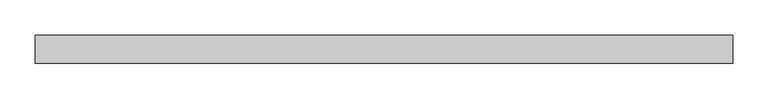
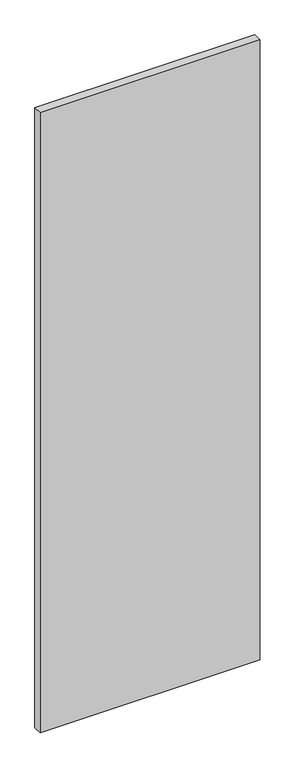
"""IFC4 building model written with IfcOpenShell, lengths in millimetres: plate geometry, Vitré."""

from ifc_helpers import new_model, si_unit, origin, origin_with_axes, place, context, project, spatial, polyline, outline, extrude, source, transform, mapped, element, save


def plate_c4e48dca(model_context):
    return source(origin(), model_context, "Body", "SweptSolid", [
        extrude(outline(polyline([(-496.2147737, -20.0), (-496.2147737, 20.0), (496.2147737, 20.0), (496.2147737, -20.0), (-496.2147737, -20.0)])), origin_with_axes(), (0.0, 0.0, 1.0), 2960.0),
    ])


if __name__ == "__main__":
    model = new_model("IFC4")
    model_context = context("Model", 3, world=origin())
    ifc_project = project(units=[si_unit("LENGTHUNIT", "METRE", prefix="MILLI")], contexts=[model_context])
    site = spatial("IfcSite", under=ifc_project)
    building = spatial("IfcBuilding", under=site)
    placement = place(None, origin())
    plate_shape = plate_c4e48dca(model_context)
    element("IfcPlate", 1, ObjectType="Vitré", at=placement, inside=building, context=model_context, shape_type="MappedRepresentation", body=[
        mapped(plate_shape, transform((0.0, 0.0, 0.0), x_axis=(1.0, 0.0, 0.0), y_axis=(0.0, 1.0, 0.0), z_axis=(0.0, 0.0, 1.0))),
    ])
    save(model, "model.ifc")
